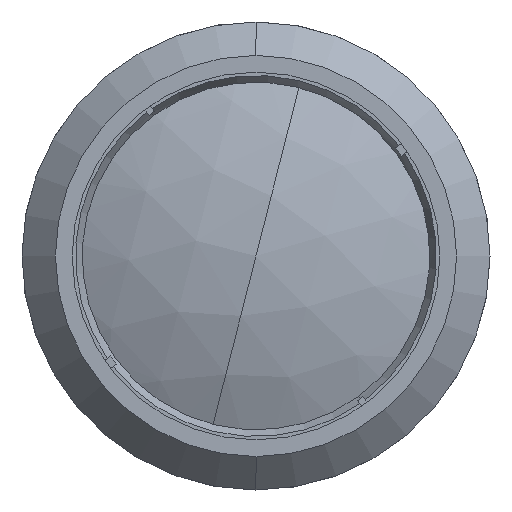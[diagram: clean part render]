
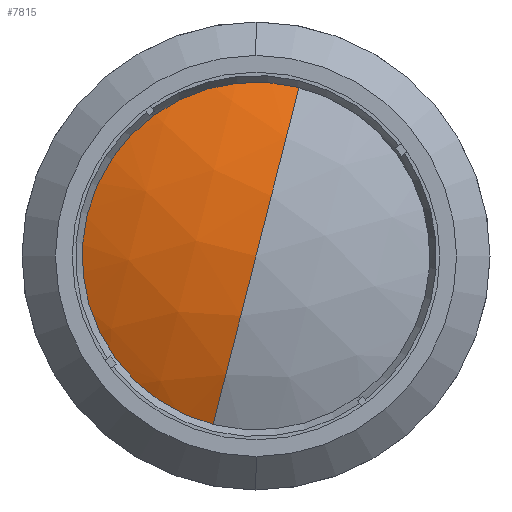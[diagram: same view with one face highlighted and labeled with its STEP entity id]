
A CAD part, left-side view. The second image highlights one B-rep face of the part: STEP entity #7815.
In plain terms, the highlighted spherical face has radius 65.508 mm.
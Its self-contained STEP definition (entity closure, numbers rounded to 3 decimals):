
#488 = CIRCLE ( 'NONE', #7351, 65.508 ) ;
#886 = CARTESIAN_POINT ( 'NONE',  ( 6.861, -6.66, 26.166 ) ) ;
#1190 = DIRECTION ( 'NONE',  ( 0., 0.969, 0.247 ) ) ;
#1382 = AXIS2_PLACEMENT_3D ( 'NONE', #2572, #12064, #7346 ) ;
#1982 = CIRCLE ( 'NONE', #2047, 65.508 ) ;
#2047 = AXIS2_PLACEMENT_3D ( 'NONE', #7323, #18474, #8933 ) ;
#2572 = CARTESIAN_POINT ( 'NONE',  ( 66.546, 0., 0. ) ) ;
#2586 = AXIS2_PLACEMENT_3D ( 'NONE', #17373, #7827, #18984 ) ;
#2611 = EDGE_LOOP ( 'NONE', ( #15395, #16539, #4406 ) ) ;
#3468 = CIRCLE ( 'NONE', #2586, 27. ) ;
#4220 = EDGE_CURVE ( 'NONE', #15168, #16148, #1982, .T. ) ;
#4406 = ORIENTED_EDGE ( 'NONE', *, *, #4220, .F. ) ;
#4814 = SPHERICAL_SURFACE ( 'NONE', #1382, 65.508 ) ;
#7147 = CARTESIAN_POINT ( 'NONE',  ( 1.038, 0., 0. ) ) ;
#7323 = CARTESIAN_POINT ( 'NONE',  ( 66.546, 0., 0. ) ) ;
#7346 = DIRECTION ( 'NONE',  ( 0., -0.247, 0.969 ) ) ;
#7351 = AXIS2_PLACEMENT_3D ( 'NONE', #10711, #1190, #12325 ) ;
#7815 = ADVANCED_FACE ( 'NONE', ( #10028 ), #4814, .T. ) ;
#7827 = DIRECTION ( 'NONE',  ( -1., 0., 0. ) ) ;
#8933 = DIRECTION ( 'NONE',  ( 0., 0.247, -0.969 ) ) ;
#10028 = FACE_OUTER_BOUND ( 'NONE', #2611, .T. ) ;
#10711 = CARTESIAN_POINT ( 'NONE',  ( 66.546, 0., 0. ) ) ;
#12064 = DIRECTION ( 'NONE',  ( 0., 0.969, 0.247 ) ) ;
#12325 = DIRECTION ( 'NONE',  ( 0., -0.247, 0.969 ) ) ;
#12475 = VERTEX_POINT ( 'NONE', #13834 ) ;
#13401 = EDGE_CURVE ( 'NONE', #12475, #16148, #488, .T. ) ;
#13834 = CARTESIAN_POINT ( 'NONE',  ( 6.861, 6.66, -26.166 ) ) ;
#15168 = VERTEX_POINT ( 'NONE', #886 ) ;
#15395 = ORIENTED_EDGE ( 'NONE', *, *, #15400, .T. ) ;
#15400 = EDGE_CURVE ( 'NONE', #15168, #12475, #3468, .T. ) ;
#16148 = VERTEX_POINT ( 'NONE', #7147 ) ;
#16539 = ORIENTED_EDGE ( 'NONE', *, *, #13401, .T. ) ;
#17373 = CARTESIAN_POINT ( 'NONE',  ( 6.861, 0., 0. ) ) ;
#18474 = DIRECTION ( 'NONE',  ( 0., -0.969, -0.247 ) ) ;
#18984 = DIRECTION ( 'NONE',  ( 0., 0.969, 0.247 ) ) ;
